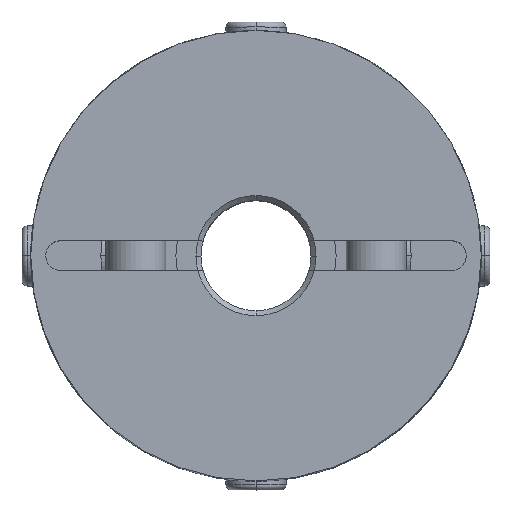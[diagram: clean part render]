
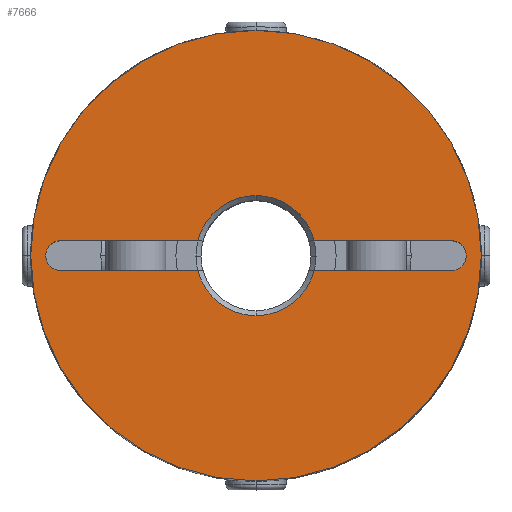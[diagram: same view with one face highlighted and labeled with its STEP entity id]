
A CAD part, top view. The second image highlights one B-rep face of the part: STEP entity #7666.
In plain terms, the highlighted planar face has unit normal (0, 0, 1).
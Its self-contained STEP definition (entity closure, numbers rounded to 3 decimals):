
#979=CARTESIAN_POINT('',(0.,22.5,22.5));
#980=VERTEX_POINT('',#979);
#987=CARTESIAN_POINT('',(0.,-22.5,22.5));
#988=VERTEX_POINT('',#987);
#989=CARTESIAN_POINT('',(0.0,0.0,22.5));
#990=DIRECTION('',(0.0,0.0,-1.0));
#991=DIRECTION('',(0.0,-1.0,0.0));
#992=AXIS2_PLACEMENT_3D('',#989,#990,#991);
#993=CIRCLE('',#992,22.5);
#994=EDGE_CURVE('',#980,#988,#993,.T.);
#1309=CARTESIAN_POINT('',(20.561,1.061,22.5));
#1310=VERTEX_POINT('',#1309);
#1326=CARTESIAN_POINT('',(19.5,-1.5,22.5));
#1327=VERTEX_POINT('',#1326);
#1334=CARTESIAN_POINT('',(19.5,0.,22.5));
#1335=DIRECTION('',(0.0,0.0,1.0));
#1336=DIRECTION('',(0.707,-0.707,0.0));
#1337=AXIS2_PLACEMENT_3D('',#1334,#1335,#1336);
#1338=CIRCLE('',#1337,1.5);
#1339=EDGE_CURVE('',#1327,#1310,#1338,.T.);
#1351=CARTESIAN_POINT('',(-20.561,-1.061,22.5));
#1352=VERTEX_POINT('',#1351);
#1368=CARTESIAN_POINT('',(-19.5,1.5,22.5));
#1369=VERTEX_POINT('',#1368);
#1376=CARTESIAN_POINT('',(-19.5,0.,22.5));
#1377=DIRECTION('',(0.0,0.0,1.0));
#1378=DIRECTION('',(-0.707,0.707,0.0));
#1379=AXIS2_PLACEMENT_3D('',#1376,#1377,#1378);
#1380=CIRCLE('',#1379,1.5);
#1381=EDGE_CURVE('',#1369,#1352,#1380,.T.);
#2105=CARTESIAN_POINT('',(0.,6.0,22.5));
#2106=VERTEX_POINT('',#2105);
#2114=CARTESIAN_POINT('',(5.809,1.5,22.5));
#2115=VERTEX_POINT('',#2114);
#2129=CARTESIAN_POINT('',(0.0,0.0,22.5));
#2130=DIRECTION('',(0.0,0.0,1.0));
#2131=DIRECTION('',(0.0,1.0,0.0));
#2132=AXIS2_PLACEMENT_3D('',#2129,#2130,#2131);
#2133=CIRCLE('',#2132,6.0);
#2134=EDGE_CURVE('',#2115,#2106,#2133,.T.);
#2144=CARTESIAN_POINT('',(0.,-6.0,22.5));
#2145=VERTEX_POINT('',#2144);
#2161=CARTESIAN_POINT('',(-5.809,-1.5,22.5));
#2162=VERTEX_POINT('',#2161);
#2176=CARTESIAN_POINT('',(0.0,0.0,22.5));
#2177=DIRECTION('',(0.0,0.0,1.0));
#2178=DIRECTION('',(0.0,-1.0,0.0));
#2179=AXIS2_PLACEMENT_3D('',#2176,#2177,#2178);
#2180=CIRCLE('',#2179,6.0);
#2181=EDGE_CURVE('',#2162,#2145,#2180,.T.);
#7404=CARTESIAN_POINT('',(19.5,1.5,22.5));
#7405=VERTEX_POINT('',#7404);
#7412=CARTESIAN_POINT('',(5.809,1.5,22.5));
#7413=DIRECTION('',(1.0,0.0,0.0));
#7414=VECTOR('',#7413,13.691);
#7415=LINE('',#7412,#7414);
#7416=EDGE_CURVE('',#2115,#7405,#7415,.T.);
#7551=CARTESIAN_POINT('',(5.809,-1.5,22.5));
#7552=VERTEX_POINT('',#7551);
#7566=CARTESIAN_POINT('',(19.5,-1.5,22.5));
#7567=DIRECTION('',(-1.0,0.0,0.0));
#7568=VECTOR('',#7567,13.691);
#7569=LINE('',#7566,#7568);
#7570=EDGE_CURVE('',#1327,#7552,#7569,.T.);
#7593=CARTESIAN_POINT('',(0.0,0.0,22.5));
#7594=DIRECTION('',(0.0,0.0,1.0));
#7595=DIRECTION('',(0.0,-1.0,0.0));
#7596=AXIS2_PLACEMENT_3D('',#7593,#7594,#7595);
#7597=CIRCLE('',#7596,6.0);
#7598=EDGE_CURVE('',#2145,#7552,#7597,.T.);
#7605=CARTESIAN_POINT('',(0.,-2.045,22.5));
#7606=DIRECTION('',(0.0,0.0,1.0));
#7607=DIRECTION('',(0.0,-1.0,0.0));
#7608=AXIS2_PLACEMENT_3D('',#7605,#7606,#7607);
#7609=PLANE('',#7608);
#7610=CARTESIAN_POINT('',(0.0,0.0,22.5));
#7611=DIRECTION('',(0.0,0.0,-1.0));
#7612=DIRECTION('',(0.0,-1.0,0.0));
#7613=AXIS2_PLACEMENT_3D('',#7610,#7611,#7612);
#7614=CIRCLE('',#7613,22.5);
#7615=EDGE_CURVE('',#988,#980,#7614,.T.);
#7616=ORIENTED_EDGE('',*,*,#7615,.F.);
#7617=ORIENTED_EDGE('',*,*,#994,.F.);
#7618=EDGE_LOOP('',(#7616,#7617));
#7619=FACE_OUTER_BOUND('',#7618,.T.);
#7620=ORIENTED_EDGE('',*,*,#2181,.F.);
#7621=CARTESIAN_POINT('',(-19.5,-1.5,22.5));
#7622=VERTEX_POINT('',#7621);
#7623=CARTESIAN_POINT('',(-5.809,-1.5,22.5));
#7624=DIRECTION('',(-1.0,0.0,0.0));
#7625=VECTOR('',#7624,13.691);
#7626=LINE('',#7623,#7625);
#7627=EDGE_CURVE('',#2162,#7622,#7626,.T.);
#7628=ORIENTED_EDGE('',*,*,#7627,.T.);
#7629=CARTESIAN_POINT('',(-19.5,0.,22.5));
#7630=DIRECTION('',(0.0,0.0,1.0));
#7631=DIRECTION('',(-0.707,0.707,0.0));
#7632=AXIS2_PLACEMENT_3D('',#7629,#7630,#7631);
#7633=CIRCLE('',#7632,1.5);
#7634=EDGE_CURVE('',#1352,#7622,#7633,.T.);
#7635=ORIENTED_EDGE('',*,*,#7634,.F.);
#7636=ORIENTED_EDGE('',*,*,#1381,.F.);
#7637=CARTESIAN_POINT('',(-5.809,1.5,22.5));
#7638=VERTEX_POINT('',#7637);
#7639=CARTESIAN_POINT('',(-19.5,1.5,22.5));
#7640=DIRECTION('',(1.0,0.0,0.0));
#7641=VECTOR('',#7640,13.691);
#7642=LINE('',#7639,#7641);
#7643=EDGE_CURVE('',#1369,#7638,#7642,.T.);
#7644=ORIENTED_EDGE('',*,*,#7643,.T.);
#7645=CARTESIAN_POINT('',(0.0,0.0,22.5));
#7646=DIRECTION('',(0.0,0.0,1.0));
#7647=DIRECTION('',(0.0,1.0,0.0));
#7648=AXIS2_PLACEMENT_3D('',#7645,#7646,#7647);
#7649=CIRCLE('',#7648,6.0);
#7650=EDGE_CURVE('',#2106,#7638,#7649,.T.);
#7651=ORIENTED_EDGE('',*,*,#7650,.F.);
#7652=ORIENTED_EDGE('',*,*,#2134,.F.);
#7653=ORIENTED_EDGE('',*,*,#7416,.T.);
#7654=CARTESIAN_POINT('',(19.5,0.,22.5));
#7655=DIRECTION('',(0.0,0.0,1.0));
#7656=DIRECTION('',(0.707,-0.707,0.0));
#7657=AXIS2_PLACEMENT_3D('',#7654,#7655,#7656);
#7658=CIRCLE('',#7657,1.5);
#7659=EDGE_CURVE('',#1310,#7405,#7658,.T.);
#7660=ORIENTED_EDGE('',*,*,#7659,.F.);
#7661=ORIENTED_EDGE('',*,*,#1339,.F.);
#7662=ORIENTED_EDGE('',*,*,#7570,.T.);
#7663=ORIENTED_EDGE('',*,*,#7598,.F.);
#7664=EDGE_LOOP('',(#7620,#7628,#7635,#7636,#7644,#7651,#7652,#7653,#7660,#7661,#7662,#7663));
#7665=FACE_BOUND('',#7664,.T.);
#7666=ADVANCED_FACE('',(#7619,#7665),#7609,.T.);
